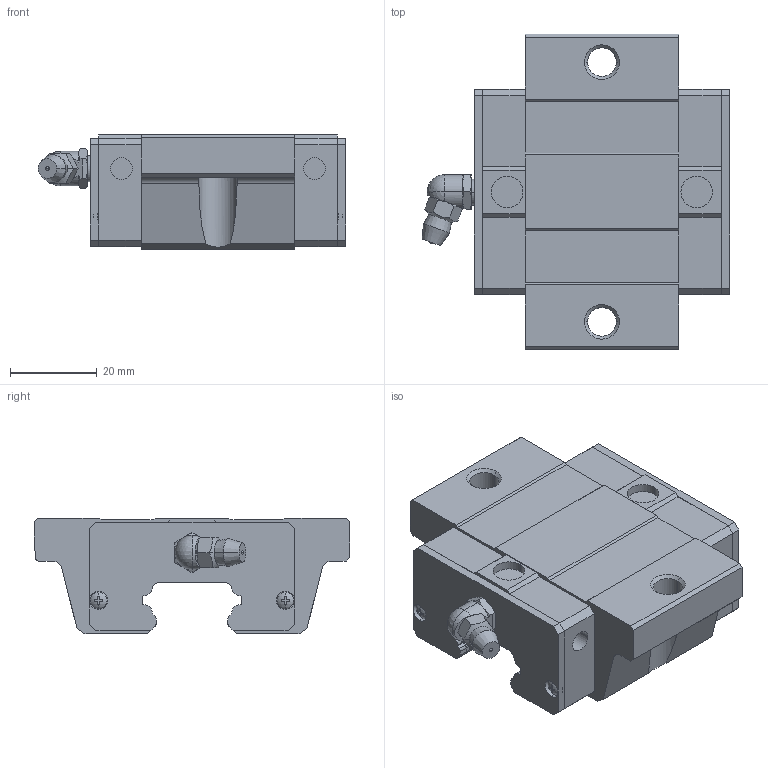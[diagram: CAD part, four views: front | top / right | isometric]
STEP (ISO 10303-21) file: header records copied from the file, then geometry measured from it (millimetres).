
FILE_DESCRIPTION(('starvars output'),'2;1');
FILE_NAME('cv20190610054551000015211.stp','05:45:52 2019/06/10',( 'Thomas Industrial Network Germany GmbH'),( 'Thomas Industrial Network Germany GmbH'),'unknown preprocess','ACIS' ,'unknown authorization');
FILE_SCHEMA(('CONFIG_CONTROL_DESIGN {UNKNOWN IMPLEMENTATION LEVEL}'));
Length unit declared in the file: millimetre
Products named in the file (10): PRODUCT_ID_2; PRODUCT_ID_3; PRODUCT_ID_4; PRODUCT_ID_5; PRODUCT_ID_6; PRODUCT_ID_7; PRODUCT_ID_8; PRODUCT_ID_9; PRODUCT_ID_10; PRODUCT_ID_11
Bounding box: 71.1 x 73 x 26.8 mm (x, y, z)
Volume: 73122.3 mm3; surface area: 24126.7 mm2
Topology: 10 solids, 10 shells, 415 faces, 1100 edges, 714 vertices
Faces by surface type: plane 225, cylinder 130, cone 48, sphere 12
Entity records: 12672 total; most frequent: ORIENTED_EDGE 2192, CARTESIAN_POINT 2088, DIRECTION 1873, EDGE_CURVE 1096, VERTEX_POINT 714, AXIS2_PLACEMENT_3D 625, VECTOR 623, LINE 623
